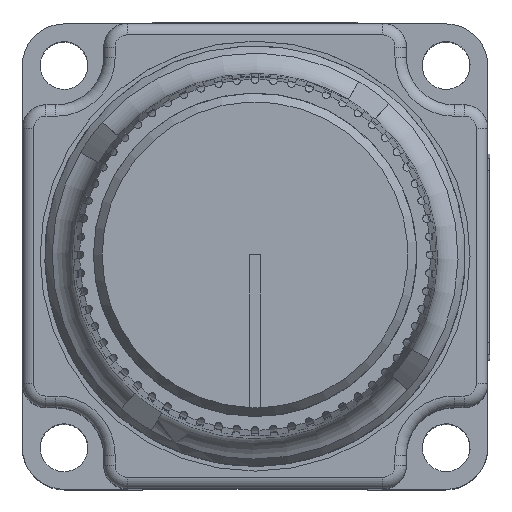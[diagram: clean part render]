
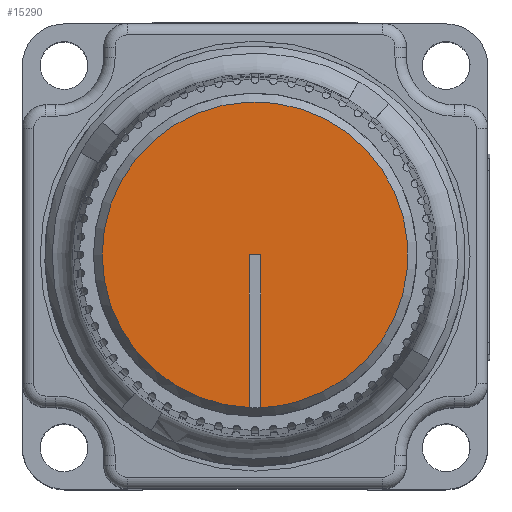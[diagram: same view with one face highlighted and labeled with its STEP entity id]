
A CAD part, top view. The second image highlights one B-rep face of the part: STEP entity #15290.
In plain terms, the highlighted planar face has unit normal (0, 0, 1).
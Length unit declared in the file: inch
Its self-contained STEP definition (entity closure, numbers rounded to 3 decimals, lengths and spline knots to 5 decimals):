
#749=PLANE('',#16745);
#1387=FACE_OUTER_BOUND('',#2279,.T.);
#2279=EDGE_LOOP('',(#11661,#11662,#11663,#11664,#11665));
#3110=CIRCLE('',#16746,0.4);
#3111=CIRCLE('',#16747,0.4);
#4181=LINE('',#25627,#5234);
#4182=LINE('',#25633,#5235);
#4183=LINE('',#25634,#5236);
#5234=VECTOR('',#20258,0.3937);
#5235=VECTOR('',#20263,0.3937);
#5236=VECTOR('',#20264,0.3937);
#6455=VERTEX_POINT('',#25625);
#6456=VERTEX_POINT('',#25626);
#6457=VERTEX_POINT('',#25628);
#6458=VERTEX_POINT('',#25630);
#6459=VERTEX_POINT('',#25632);
#8298=EDGE_CURVE('',#6455,#6456,#4181,.T.);
#8299=EDGE_CURVE('',#6456,#6457,#3110,.T.);
#8300=EDGE_CURVE('',#6457,#6458,#3111,.T.);
#8301=EDGE_CURVE('',#6458,#6459,#4182,.T.);
#8302=EDGE_CURVE('',#6459,#6455,#4183,.T.);
#11661=ORIENTED_EDGE('',*,*,#8298,.T.);
#11662=ORIENTED_EDGE('',*,*,#8299,.T.);
#11663=ORIENTED_EDGE('',*,*,#8300,.T.);
#11664=ORIENTED_EDGE('',*,*,#8301,.T.);
#11665=ORIENTED_EDGE('',*,*,#8302,.T.);
#15290=ADVANCED_FACE('',(#1387),#749,.T.);
#16745=AXIS2_PLACEMENT_3D('',#25624,#20256,#20257);
#16746=AXIS2_PLACEMENT_3D('',#25629,#20259,#20260);
#16747=AXIS2_PLACEMENT_3D('',#25631,#20261,#20262);
#20256=DIRECTION('center_axis',(0.,0.,1.));
#20257=DIRECTION('ref_axis',(1.,0.,0.));
#20258=DIRECTION('',(0.,-1.,0.));
#20259=DIRECTION('center_axis',(0.,0.,
1.));
#20260=DIRECTION('ref_axis',(0.325,0.946,0.));
#20261=DIRECTION('center_axis',(0.,0.,
1.));
#20262=DIRECTION('ref_axis',(0.325,0.946,0.));
#20263=DIRECTION('',(0.,1.,0.));
#20264=DIRECTION('',(1.,0.,0.));
#25624=CARTESIAN_POINT('Origin',(0.06395,-0.22019,1.82389));
#25625=CARTESIAN_POINT('',(0.07895,0.17992,1.82389));
#25626=CARTESIAN_POINT('',(0.07895,-0.2198,1.82389));
#25627=CARTESIAN_POINT('',(0.07895,0.17992,1.82389));
#25628=CARTESIAN_POINT('',(0.17813,-0.20344,1.82389));
#25629=CARTESIAN_POINT('Origin',(0.06395,0.17992,1.82389));
#25630=CARTESIAN_POINT('',(0.04895,-0.2198,1.82389));
#25631=CARTESIAN_POINT('Origin',(0.06395,0.17992,1.82389));
#25632=CARTESIAN_POINT('',(0.04895,0.17992,1.82389));
#25633=CARTESIAN_POINT('',(0.04895,-0.2198,1.82389));
#25634=CARTESIAN_POINT('',(0.04895,0.17992,1.82389));
